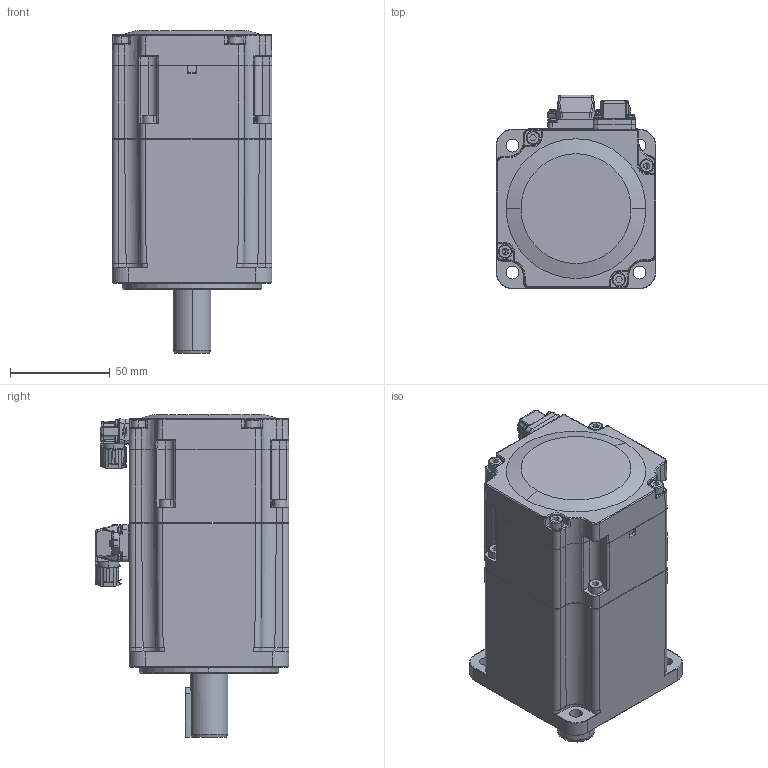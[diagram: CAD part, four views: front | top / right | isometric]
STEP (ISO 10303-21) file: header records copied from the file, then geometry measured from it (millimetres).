
FILE_DESCRIPTION (( 'STEP AP203' ), '1' );
FILE_NAME ('ACM0H 750W价陬.STEP', '2023-07-27T07:57:10', ( 'Windows 蚚誧' ), ( 'Organization' ), 'SwSTEP 2.0', 'SolidWorks 2021', '' );
FILE_SCHEMA (( 'CONFIG_CONTROL_DESIGN' ));
Products named in the file (1): ACM0H  750W价陬
Bounding box: 80 x 97 x 161.7 mm (x, y, z)
Surface area: 62972.3 mm2 (no closed solid volume)
Topology: 0 solids, 51 shells, 1259 faces, 4522 edges, 3167 vertices
Faces by surface type: cylinder 467, plane 459, torus 155, bspline 105, cone 51, sphere 22
Entity records: 53390 total; most frequent: CARTESIAN_POINT 17156, DIRECTION 7213, ORIENTED_EDGE 7088, EDGE_CURVE 4510, VERTEX_POINT 3165, AXIS2_PLACEMENT_3D 2692, LINE 1829, VECTOR 1829
